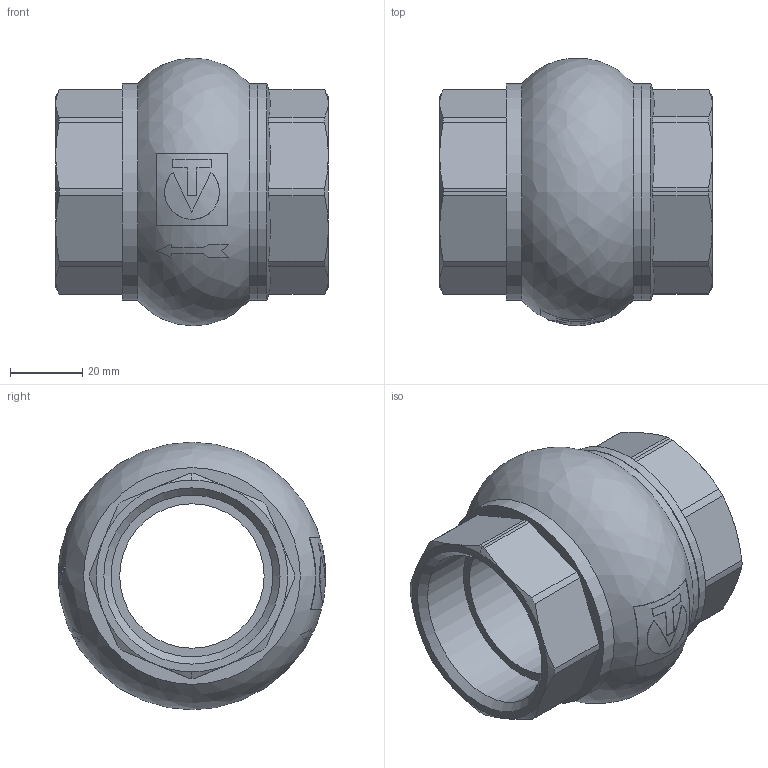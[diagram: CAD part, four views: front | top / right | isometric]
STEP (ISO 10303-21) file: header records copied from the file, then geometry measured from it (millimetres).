
FILE_DESCRIPTION(('TFLEX Exchange Step'),'2;1');
FILE_NAME('Check valve DN40, 1 1_2 VT.151.N.08 Valtec.stp', '2023-09-12T13:26:34+03:00',('denis'),('Unknown organisation'),'TFLEX Exchange 2023.0','T-FLEX CAD','Unknown authorisation');
FILE_SCHEMA( ('AUTOMOTIVE_DESIGN { 1 0 10303 214 1 1 1 1 }') );
Length unit declared in the file: millimetre
Products named in the file (1): Nodes
Bounding box: 75.53 x 73.99 x 74.1 mm (x, y, z)
Volume: 121269.3 mm3; surface area: 28187.3 mm2
Topology: 1 solids, 1 shells, 168 faces, 457 edges, 306 vertices
Faces by surface type: plane 91, cylinder 29, bspline 25, cone 23
Full cylindrical faces by diameter (mm): 40 x1, 44.8 x2, 59.835 x1, 60.035 x3
Entity records: 7202 total; most frequent: CARTESIAN_POINT 3496, ORIENTED_EDGE 914, DIRECTION 574, EDGE_CURVE 457, VERTEX_POINT 306, AXIS2_PLACEMENT_3D 212, EDGE_LOOP 185, FACE_BOUND 185
